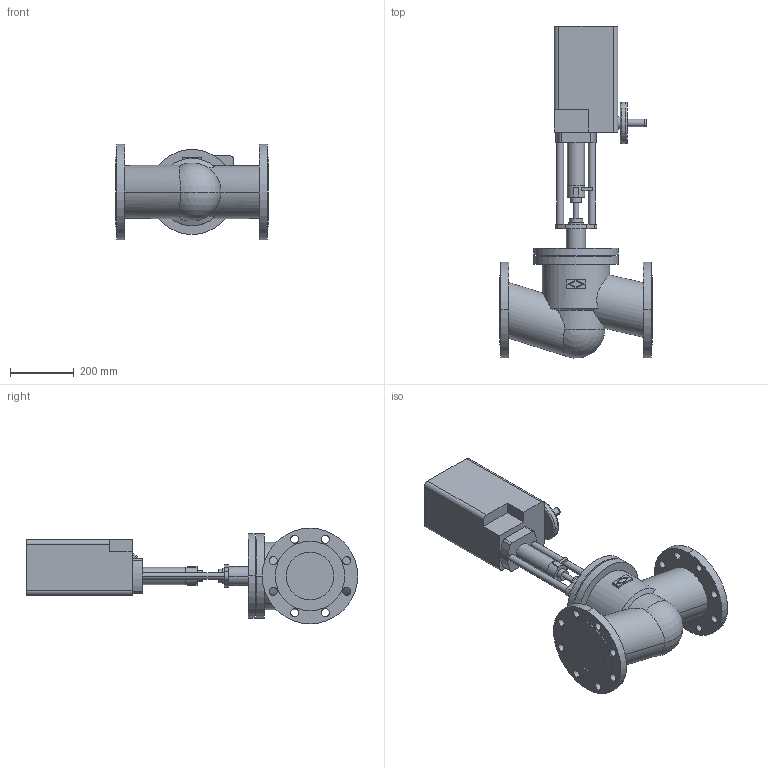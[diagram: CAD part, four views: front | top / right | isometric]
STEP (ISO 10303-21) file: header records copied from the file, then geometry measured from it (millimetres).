
FILE_DESCRIPTION(('OneSpaceDesigner STEP Export'),'2;1');
FILE_NAME('c000003130.stp','2007-01-16T10:44:06',(''),(''),'OneSpace Designer STEP processor for AP214 (Solid Model)','OneSpace Designer 14.00B 27-May-2006 (C) CoCreate Software GmbH','');
FILE_SCHEMA(('AUTOMOTIVE_DESIGN { 1 0 10303 214 1 1 1 1 }'));
Length unit declared in the file: millimetre
Products named in the file (2): 1; 2
Bounding box: 480 x 1043.27 x 300 mm (x, y, z)
Volume: 33203159 mm3; surface area: 1222320 mm2
Topology: 2 solids, 2 shells, 180 faces, 442 edges, 292 vertices
Faces by surface type: cylinder 96, plane 74, torus 6, cone 2, sphere 2
Entity records: 5124 total; most frequent: CARTESIAN_POINT 1103, ORIENTED_EDGE 880, DIRECTION 740, EDGE_CURVE 440, VERTEX_POINT 292, AXIS2_PLACEMENT_3D 266, EDGE_LOOP 240, VECTOR 208
